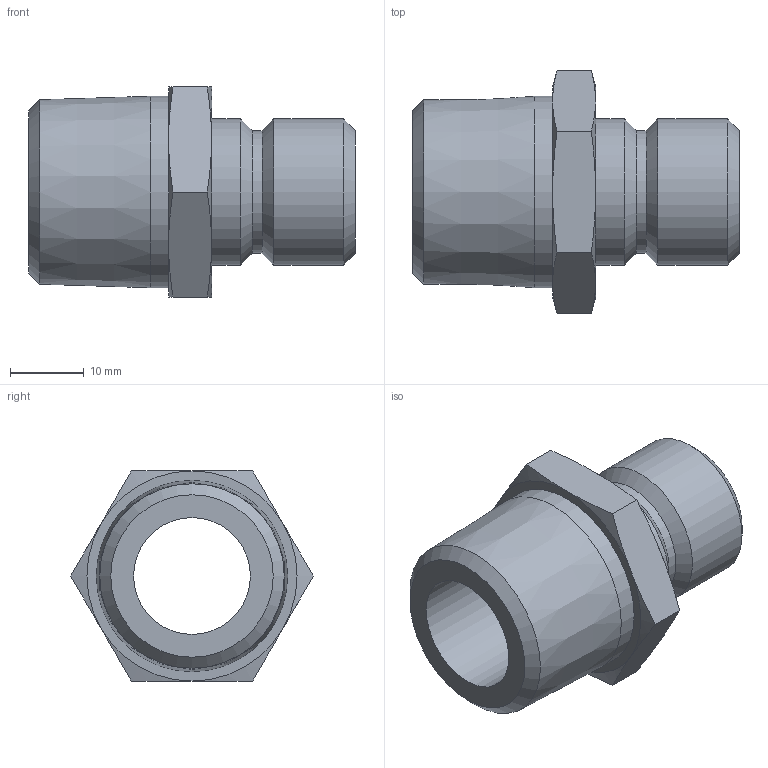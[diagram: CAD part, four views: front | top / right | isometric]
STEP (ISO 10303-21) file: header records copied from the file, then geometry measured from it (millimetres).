
FILE_DESCRIPTION(/* description */ ('STEP AP214'),/* implementation_level */ '2;1');
FILE_NAME(/* name */ 'JP-556',/* time_stamp */ '2024-12-19T08:36:43+01:00',/* author */ ('License CC BY-ND 4.0'),/* organization */ ('CADENAS'),/* preprocessor_version */ 'ST-DEVELOPER v19.3',/* originating_system */ 'PARTsolutions',/* authorisation */ ' ');
FILE_SCHEMA (('AUTOMOTIVE_DESIGN {1 0 10303 214 3 1 1}'));
Length unit declared in the file: inch
Products named in the file (1): JP-556
Bounding box: 44.45 x 33 x 28.57 mm (x, y, z)
Volume: 10744.7 mm3; surface area: 6406.3 mm2
Topology: 1 solids, 1 shells, 32 faces, 65 edges, 37 vertices
Faces by surface type: cone 17, plane 10, cylinder 5
Full cylindrical faces by diameter (mm): 15.875 x1, 16.706 x1, 19.888 x2, 26.03 x1
Entity records: 832 total; most frequent: CARTESIAN_POINT 197, DIRECTION 122, ORIENTED_EDGE 110, AXIS2_PLACEMENT_3D 58, EDGE_CURVE 55, EDGE_LOOP 46, FACE_BOUND 46, VERTEX_POINT 37
